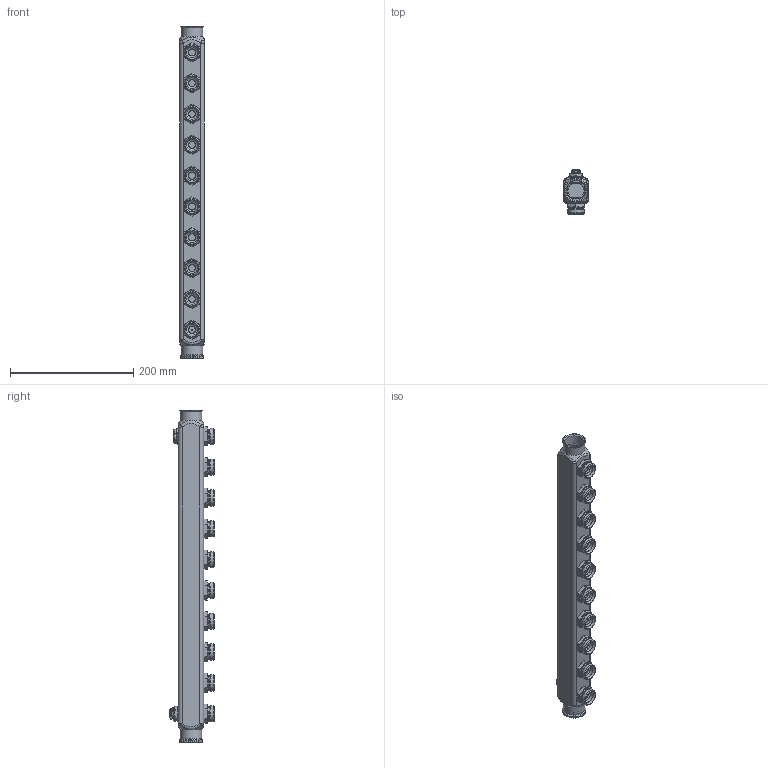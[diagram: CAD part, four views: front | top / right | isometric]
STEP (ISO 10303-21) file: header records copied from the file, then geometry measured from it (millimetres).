
FILE_DESCRIPTION(('STEP AP203'), '1');
FILE_NAME('VTc.505.SQ.060510', '2026-02-20T10:31:03', ('verevichevva'), ('Vesta'), 'C3D Converter', 'C3D Toolkit', '');
FILE_SCHEMA(('CONFIG_CONTROL_DESIGN'));
Length unit declared in the file: millimetre
Products named in the file (1): ВР.622621.191.000 СБ
Bounding box: 40 x 71.6 x 538.5 mm (x, y, z)
Volume: 216381.7 mm3; surface area: 217680.4 mm2
Topology: 29 solids, 29 shells, 1094 faces, 2587 edges, 1588 vertices
Faces by surface type: plane 379, cone 238, cylinder 174, extrusion 118, torus 113, bspline 72
Full cylindrical faces by diameter (mm): 1.6 x1, 2.3 x1, 3.4 x1, 4.134 x1, 5 x1, 5.3 x1, 6.3 x2, 9.6 x1, 10.2 x1, 11 x10, 12.5 x10, 13 x1, 14 x1, 15.7 x1, 18 x11, 18.1 x10, 18.5 x1, 19 x11, 19.294 x1, 19.5 x2, 20 x1, 20.955 x12, 22 x1, 22.2 x12, 23 x1, 23.5 x10, 24 x1, 25.5 x1, 26 x1, 26.441 x10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
Entity records: 42114 total; most frequent: CARTESIAN_POINT 19698, ORIENTED_EDGE 4490, DIRECTION 4131, EDGE_CURVE 2245, AXIS2_PLACEMENT_3D 1620, VERTEX_POINT 1559, EDGE_LOOP 1470, ADVANCED_FACE 1081
